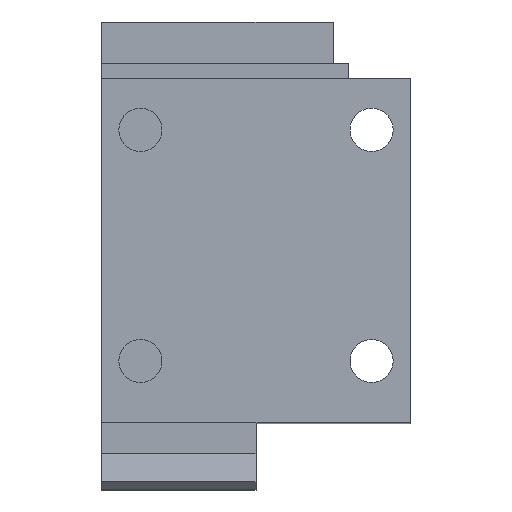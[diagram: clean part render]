
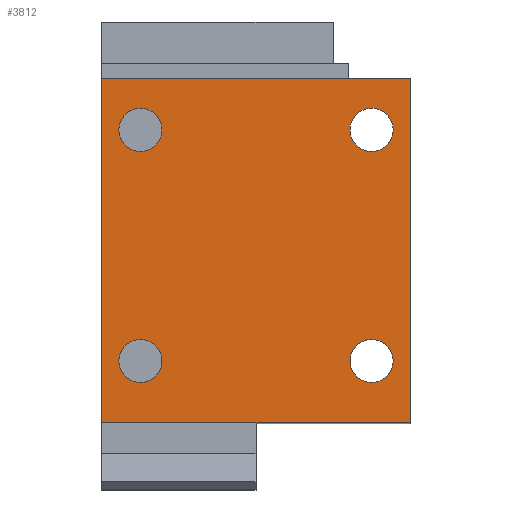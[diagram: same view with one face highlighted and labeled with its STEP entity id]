
A CAD part, top view. The second image highlights one B-rep face of the part: STEP entity #3812.
In plain terms, the highlighted planar face has unit normal (0, 0, 1).
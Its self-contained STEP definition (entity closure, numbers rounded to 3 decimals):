
#29=CIRCLE('',#4012,1.4);
#31=CIRCLE('',#4015,1.4);
#33=CIRCLE('',#4018,1.4);
#35=CIRCLE('',#4021,1.4);
#73=FACE_BOUND('',#481,.T.);
#74=FACE_BOUND('',#482,.T.);
#75=FACE_BOUND('',#483,.T.);
#76=FACE_BOUND('',#484,.T.);
#267=FACE_OUTER_BOUND('',#480,.T.);
#480=EDGE_LOOP('',(#3432,#3433,#3434,#3435));
#481=EDGE_LOOP('',(#3436));
#482=EDGE_LOOP('',(#3437));
#483=EDGE_LOOP('',(#3438));
#484=EDGE_LOOP('',(#3439));
#734=LINE('',#5458,#1242);
#770=LINE('',#5531,#1278);
#934=LINE('',#5844,#1442);
#997=LINE('',#6025,#1505);
#1242=VECTOR('',#4454,10.);
#1278=VECTOR('',#4494,10.);
#1442=VECTOR('',#4710,10.);
#1505=VECTOR('',#4951,10.);
#1670=VERTEX_POINT('',#5455);
#1671=VERTEX_POINT('',#5457);
#1705=VERTEX_POINT('',#5528);
#1706=VERTEX_POINT('',#5530);
#1851=VERTEX_POINT('',#6000);
#1853=VERTEX_POINT('',#6006);
#1855=VERTEX_POINT('',#6012);
#1857=VERTEX_POINT('',#6018);
#2103=EDGE_CURVE('',#1670,#1671,#734,.T.);
#2139=EDGE_CURVE('',#1705,#1706,#770,.T.);
#2303=EDGE_CURVE('',#1706,#1670,#934,.T.);
#2375=EDGE_CURVE('',#1851,#1851,#29,.T.);
#2378=EDGE_CURVE('',#1853,#1853,#31,.T.);
#2381=EDGE_CURVE('',#1855,#1855,#33,.T.);
#2384=EDGE_CURVE('',#1857,#1857,#35,.T.);
#2388=EDGE_CURVE('',#1671,#1705,#997,.T.);
#3432=ORIENTED_EDGE('',*,*,#2303,.F.);
#3433=ORIENTED_EDGE('',*,*,#2139,.F.);
#3434=ORIENTED_EDGE('',*,*,#2388,.F.);
#3435=ORIENTED_EDGE('',*,*,#2103,.F.);
#3436=ORIENTED_EDGE('',*,*,#2384,.T.);
#3437=ORIENTED_EDGE('',*,*,#2381,.T.);
#3438=ORIENTED_EDGE('',*,*,#2378,.T.);
#3439=ORIENTED_EDGE('',*,*,#2375,.T.);
#3624=PLANE('',#4024);
#3812=ADVANCED_FACE('',(#267,#73,#74,#75,#76),#3624,.T.);
#4012=AXIS2_PLACEMENT_3D('',#6001,#4922,#4923);
#4015=AXIS2_PLACEMENT_3D('',#6007,#4929,#4930);
#4018=AXIS2_PLACEMENT_3D('',#6013,#4936,#4937);
#4021=AXIS2_PLACEMENT_3D('',#6019,#4943,#4944);
#4024=AXIS2_PLACEMENT_3D('',#6026,#4952,#4953);
#4454=DIRECTION('',(1.,0.,0.));
#4494=DIRECTION('',(-1.,0.,0.));
#4710=DIRECTION('',(0.,1.,0.));
#4922=DIRECTION('center_axis',(0.,0.,-1.));
#4923=DIRECTION('ref_axis',(1.,0.,0.));
#4929=DIRECTION('center_axis',(0.,0.,-1.));
#4930=DIRECTION('ref_axis',(1.,0.,0.));
#4936=DIRECTION('center_axis',(0.,0.,-1.));
#4937=DIRECTION('ref_axis',(1.,0.,0.));
#4943=DIRECTION('center_axis',(0.,0.,-1.));
#4944=DIRECTION('ref_axis',(1.,0.,0.));
#4951=DIRECTION('',(0.,-1.,0.));
#4952=DIRECTION('center_axis',(0.,0.,1.));
#4953=DIRECTION('ref_axis',(1.,0.,0.));
#5455=CARTESIAN_POINT('',(0.,21.4,2.587));
#5457=CARTESIAN_POINT('',(20.,21.4,2.587));
#5458=CARTESIAN_POINT('',(20.,21.4,2.587));
#5528=CARTESIAN_POINT('',(20.,-0.9,2.587));
#5530=CARTESIAN_POINT('',(0.,-0.9,2.587));
#5531=CARTESIAN_POINT('',(10.,-0.9,2.587));
#5844=CARTESIAN_POINT('',(0.,20.6,2.587));
#6000=CARTESIAN_POINT('',(1.1,3.1,2.587));
#6001=CARTESIAN_POINT('Origin',(2.5,3.1,2.587));
#6006=CARTESIAN_POINT('',(16.1,18.1,2.587));
#6007=CARTESIAN_POINT('Origin',(17.5,18.1,2.587));
#6012=CARTESIAN_POINT('',(16.1,3.1,2.587));
#6013=CARTESIAN_POINT('Origin',(17.5,3.1,2.587));
#6018=CARTESIAN_POINT('',(1.1,18.1,2.587));
#6019=CARTESIAN_POINT('Origin',(2.5,18.1,2.587));
#6025=CARTESIAN_POINT('',(20.,0.6,2.587));
#6026=CARTESIAN_POINT('Origin',(10.,10.6,2.587));
